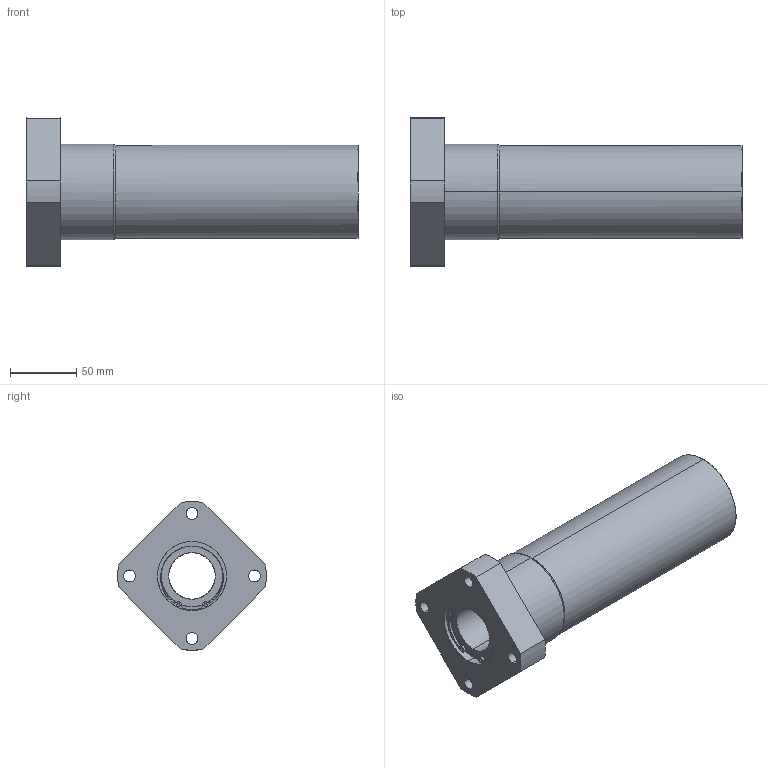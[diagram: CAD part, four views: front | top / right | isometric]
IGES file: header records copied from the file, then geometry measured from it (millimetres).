
Global section: file name: No Iges File Name specified; native system: AutoDesk Inventor R11.0; preprocessor: AutoDesk Inventor Iges Exporter R11.0; author: No Author specified; organization: No Organization specified; date: 20170922.134959; units: millimetre
Bounding box: 250 x 111.86 x 111.93 mm (x, y, z)
Surface area: 112421.7 mm2 (no closed solid volume)
Topology: 0 solids, 0 shells, 130 faces, 944 edges, 944 vertices
Faces by surface type: bspline 130
